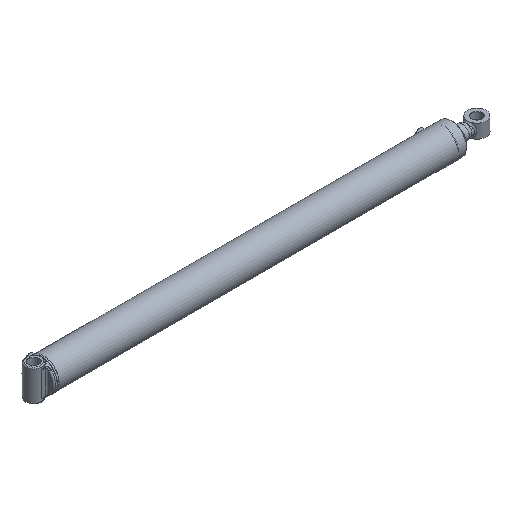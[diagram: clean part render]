
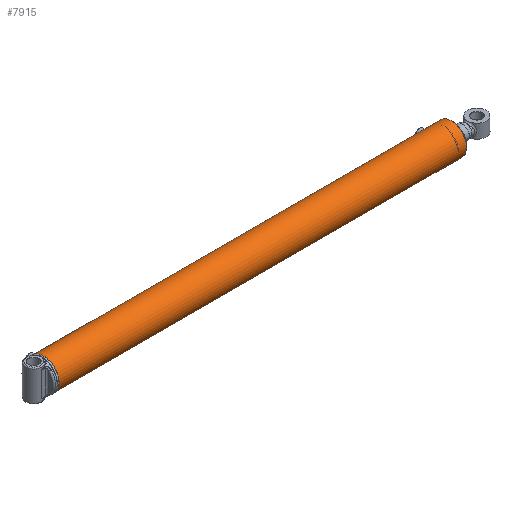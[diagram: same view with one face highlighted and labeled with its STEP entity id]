
A CAD part, isometric view. The second image highlights one B-rep face of the part: STEP entity #7915.
In plain terms, the highlighted cylindrical face has radius 49.212 mm (diameter 98.425 mm), a full revolution.
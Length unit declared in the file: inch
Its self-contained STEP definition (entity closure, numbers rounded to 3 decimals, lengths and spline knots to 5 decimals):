
#653=B_SPLINE_CURVE_WITH_KNOTS('',3,(#11899,#11900,#11901,#11902,#11903,
#11904,#11905,#11906,#11907,#11908),.UNSPECIFIED.,.F.,.F.,(4,2,2,2,4),(0.,
0.17952,0.35904,0.53855,0.71807),
 .UNSPECIFIED.);
#654=B_SPLINE_CURVE_WITH_KNOTS('',3,(#11909,#11910,#11911,#11912,#11913,
#11914,#11915,#11916,#11917,#11918,#11919,#11920,#11921,#11922,#11923,#11924,
#11925,#11926,#11927,#11928,#11929,#11930,#11931,#11932,#11933,#11934),
 .UNSPECIFIED.,.F.,.F.,(4,2,2,2,2,2,2,2,2,2,2,2,4),(0.71807,0.89759,
1.07711,1.25662,1.43614,1.61566,1.79518,
1.97469,2.15421,2.33373,2.51325,2.69276,
2.87228),.UNSPECIFIED.);
#655=B_SPLINE_CURVE_WITH_KNOTS('',3,(#11939,#11940,#11941,#11942,#11943,
#11944,#11945,#11946,#11947,#11948),.UNSPECIFIED.,.F.,.F.,(4,2,2,2,4),(0.,
0.17952,0.35904,0.53855,0.71807),
 .UNSPECIFIED.);
#656=B_SPLINE_CURVE_WITH_KNOTS('',3,(#11949,#11950,#11951,#11952,#11953,
#11954,#11955,#11956,#11957,#11958,#11959,#11960,#11961,#11962,#11963,#11964,
#11965,#11966,#11967,#11968,#11969,#11970,#11971,#11972,#11973,#11974),
 .UNSPECIFIED.,.F.,.F.,(4,2,2,2,2,2,2,2,2,2,2,2,4),(0.71807,0.89759,
1.07711,1.25662,1.43614,1.61566,1.79518,
1.97469,2.15421,2.33373,2.51325,2.69276,
2.87228),.UNSPECIFIED.);
#962=FACE_BOUND('',#2484,.T.);
#963=FACE_BOUND('',#2485,.T.);
#1244=LINE('',#12002,#1570);
#1570=VECTOR('',#9736,1.9375);
#1893=CYLINDRICAL_SURFACE('',#8765,1.9375);
#1987=FACE_OUTER_BOUND('',#2483,.T.);
#2483=EDGE_LOOP('',(#5553,#5554,#5555,#5556,#5557,#5558));
#2484=EDGE_LOOP('',(#5559,#5560));
#2485=EDGE_LOOP('',(#5561,#5562));
#3065=CIRCLE('',#8762,1.9375);
#3067=CIRCLE('',#8764,1.9375);
#3068=CIRCLE('',#8766,1.9375);
#3069=CIRCLE('',#8767,1.9375);
#3547=VERTEX_POINT('',#11896);
#3548=VERTEX_POINT('',#11898);
#3549=VERTEX_POINT('',#11936);
#3550=VERTEX_POINT('',#11938);
#3557=VERTEX_POINT('',#11995);
#3558=VERTEX_POINT('',#11996);
#3559=VERTEX_POINT('',#12001);
#3560=VERTEX_POINT('',#12003);
#4319=EDGE_CURVE('',#3548,#3547,#653,.T.);
#4320=EDGE_CURVE('',#3547,#3548,#654,.T.);
#4322=EDGE_CURVE('',#3550,#3549,#655,.T.);
#4323=EDGE_CURVE('',#3549,#3550,#656,.T.);
#4333=EDGE_CURVE('',#3557,#3558,#3065,.T.);
#4335=EDGE_CURVE('',#3558,#3557,#3067,.T.);
#4336=EDGE_CURVE('',#3557,#3559,#1244,.T.);
#4337=EDGE_CURVE('',#3560,#3559,#3068,.T.);
#4338=EDGE_CURVE('',#3559,#3560,#3069,.T.);
#5553=ORIENTED_EDGE('',*,*,#4333,.F.);
#5554=ORIENTED_EDGE('',*,*,#4336,.T.);
#5555=ORIENTED_EDGE('',*,*,#4337,.F.);
#5556=ORIENTED_EDGE('',*,*,#4338,.F.);
#5557=ORIENTED_EDGE('',*,*,#4336,.F.);
#5558=ORIENTED_EDGE('',*,*,#4335,.F.);
#5559=ORIENTED_EDGE('',*,*,#4319,.T.);
#5560=ORIENTED_EDGE('',*,*,#4320,.T.);
#5561=ORIENTED_EDGE('',*,*,#4322,.T.);
#5562=ORIENTED_EDGE('',*,*,#4323,.T.);
#7915=ADVANCED_FACE('',(#1987,#962,#963),#1893,.T.);
#8762=AXIS2_PLACEMENT_3D('',#11997,#9728,#9729);
#8764=AXIS2_PLACEMENT_3D('',#11999,#9732,#9733);
#8765=AXIS2_PLACEMENT_3D('',#12000,#9734,#9735);
#8766=AXIS2_PLACEMENT_3D('',#12004,#9737,#9738);
#8767=AXIS2_PLACEMENT_3D('',#12005,#9739,#9740);
#9728=DIRECTION('center_axis',(1.,0.,0.));
#9729=DIRECTION('ref_axis',(0.,-1.,0.));
#9732=DIRECTION('center_axis',(1.,0.,0.));
#9733=DIRECTION('ref_axis',(0.,-1.,0.));
#9734=DIRECTION('center_axis',(1.,0.,0.));
#9735=DIRECTION('ref_axis',(0.,-1.,0.));
#9736=DIRECTION('',(-1.,0.,0.));
#9737=DIRECTION('center_axis',(-1.,0.,0.));
#9738=DIRECTION('ref_axis',(0.,-1.,0.));
#9739=DIRECTION('center_axis',(-1.,0.,0.));
#9740=DIRECTION('ref_axis',(0.,-1.,0.));
#11896=CARTESIAN_POINT('',(0.7225,0.,1.9375));
#11898=CARTESIAN_POINT('',(0.91,-0.1875,1.92841));
#11899=CARTESIAN_POINT('Ctrl Pts',(0.91,-0.1875,1.92841));
#11900=CARTESIAN_POINT('Ctrl Pts',(0.88644,-0.1875,1.92841));
#11901=CARTESIAN_POINT('Ctrl Pts',(0.86132,-0.18279,
1.92888));
#11902=CARTESIAN_POINT('Ctrl Pts',(0.81513,-0.16365,
1.9306));
#11903=CARTESIAN_POINT('Ctrl Pts',(0.79406,-0.14922,
1.93182));
#11904=CARTESIAN_POINT('Ctrl Pts',(0.76078,-0.11594,
1.9341));
#11905=CARTESIAN_POINT('Ctrl Pts',(0.74635,-0.09487,
1.93531));
#11906=CARTESIAN_POINT('Ctrl Pts',(0.72721,-0.04868,
1.93703));
#11907=CARTESIAN_POINT('Ctrl Pts',(0.7225,-0.02356,1.9375));
#11908=CARTESIAN_POINT('Ctrl Pts',(0.7225,0.,1.9375));
#11909=CARTESIAN_POINT('Ctrl Pts',(0.7225,0.,1.9375));
#11910=CARTESIAN_POINT('Ctrl Pts',(0.7225,0.02356,1.9375));
#11911=CARTESIAN_POINT('Ctrl Pts',(0.72721,0.04868,
1.93703));
#11912=CARTESIAN_POINT('Ctrl Pts',(0.74635,0.09487,
1.93531));
#11913=CARTESIAN_POINT('Ctrl Pts',(0.76078,0.11594,
1.9341));
#11914=CARTESIAN_POINT('Ctrl Pts',(0.79406,0.14922,
1.93182));
#11915=CARTESIAN_POINT('Ctrl Pts',(0.81513,0.16365,
1.9306));
#11916=CARTESIAN_POINT('Ctrl Pts',(0.86132,0.18279,
1.92888));
#11917=CARTESIAN_POINT('Ctrl Pts',(0.88644,0.1875,1.92841));
#11918=CARTESIAN_POINT('Ctrl Pts',(0.93356,0.1875,1.92841));
#11919=CARTESIAN_POINT('Ctrl Pts',(0.95868,0.18279,
1.92888));
#11920=CARTESIAN_POINT('Ctrl Pts',(1.00487,0.16365,1.9306));
#11921=CARTESIAN_POINT('Ctrl Pts',(1.02594,0.14922,1.93182));
#11922=CARTESIAN_POINT('Ctrl Pts',(1.05922,0.11594,1.9341));
#11923=CARTESIAN_POINT('Ctrl Pts',(1.07365,0.09487,
1.93531));
#11924=CARTESIAN_POINT('Ctrl Pts',(1.09279,0.04868,
1.93703));
#11925=CARTESIAN_POINT('Ctrl Pts',(1.0975,0.02356,1.9375));
#11926=CARTESIAN_POINT('Ctrl Pts',(1.0975,-0.02356,1.9375));
#11927=CARTESIAN_POINT('Ctrl Pts',(1.09279,-0.04868,
1.93703));
#11928=CARTESIAN_POINT('Ctrl Pts',(1.07365,-0.09487,
1.93531));
#11929=CARTESIAN_POINT('Ctrl Pts',(1.05922,-0.11594,
1.9341));
#11930=CARTESIAN_POINT('Ctrl Pts',(1.02594,-0.14922,
1.93182));
#11931=CARTESIAN_POINT('Ctrl Pts',(1.00487,-0.16365,
1.9306));
#11932=CARTESIAN_POINT('Ctrl Pts',(0.95868,-0.18279,
1.92888));
#11933=CARTESIAN_POINT('Ctrl Pts',(0.93356,-0.1875,1.92841));
#11934=CARTESIAN_POINT('Ctrl Pts',(0.91,-0.1875,1.92841));
#11936=CARTESIAN_POINT('',(49.9425,0.,1.9375));
#11938=CARTESIAN_POINT('',(50.13,-0.1875,1.92841));
#11939=CARTESIAN_POINT('Ctrl Pts',(50.13,-0.1875,1.92841));
#11940=CARTESIAN_POINT('Ctrl Pts',(50.10644,-0.1875,
1.92841));
#11941=CARTESIAN_POINT('Ctrl Pts',(50.08132,-0.18279,
1.92888));
#11942=CARTESIAN_POINT('Ctrl Pts',(50.03513,-0.16365,
1.9306));
#11943=CARTESIAN_POINT('Ctrl Pts',(50.01406,-0.14922,1.93182));
#11944=CARTESIAN_POINT('Ctrl Pts',(49.98078,-0.11594,
1.9341));
#11945=CARTESIAN_POINT('Ctrl Pts',(49.96635,-0.09487,
1.93531));
#11946=CARTESIAN_POINT('Ctrl Pts',(49.94721,-0.04868,
1.93703));
#11947=CARTESIAN_POINT('Ctrl Pts',(49.9425,-0.02356,1.9375));
#11948=CARTESIAN_POINT('Ctrl Pts',(49.9425,0.,1.9375));
#11949=CARTESIAN_POINT('Ctrl Pts',(49.9425,0.,1.9375));
#11950=CARTESIAN_POINT('Ctrl Pts',(49.9425,0.02356,1.9375));
#11951=CARTESIAN_POINT('Ctrl Pts',(49.94721,0.04868,
1.93703));
#11952=CARTESIAN_POINT('Ctrl Pts',(49.96635,0.09487,
1.93531));
#11953=CARTESIAN_POINT('Ctrl Pts',(49.98078,0.11594,1.9341));
#11954=CARTESIAN_POINT('Ctrl Pts',(50.01406,0.14922,1.93182));
#11955=CARTESIAN_POINT('Ctrl Pts',(50.03513,0.16365,1.9306));
#11956=CARTESIAN_POINT('Ctrl Pts',(50.08132,0.18279,1.92888));
#11957=CARTESIAN_POINT('Ctrl Pts',(50.10644,0.1875,1.92841));
#11958=CARTESIAN_POINT('Ctrl Pts',(50.15356,0.1875,1.92841));
#11959=CARTESIAN_POINT('Ctrl Pts',(50.17868,0.18279,1.92888));
#11960=CARTESIAN_POINT('Ctrl Pts',(50.22487,0.16365,1.9306));
#11961=CARTESIAN_POINT('Ctrl Pts',(50.24594,0.14922,1.93182));
#11962=CARTESIAN_POINT('Ctrl Pts',(50.27922,0.11594,1.9341));
#11963=CARTESIAN_POINT('Ctrl Pts',(50.29365,0.09487,
1.93531));
#11964=CARTESIAN_POINT('Ctrl Pts',(50.31279,0.04868,1.93703));
#11965=CARTESIAN_POINT('Ctrl Pts',(50.3175,0.02356,1.9375));
#11966=CARTESIAN_POINT('Ctrl Pts',(50.3175,-0.02356,1.9375));
#11967=CARTESIAN_POINT('Ctrl Pts',(50.31279,-0.04868,
1.93703));
#11968=CARTESIAN_POINT('Ctrl Pts',(50.29365,-0.09487,
1.93531));
#11969=CARTESIAN_POINT('Ctrl Pts',(50.27922,-0.11594,
1.9341));
#11970=CARTESIAN_POINT('Ctrl Pts',(50.24594,-0.14922,1.93182));
#11971=CARTESIAN_POINT('Ctrl Pts',(50.22487,-0.16365,
1.9306));
#11972=CARTESIAN_POINT('Ctrl Pts',(50.17868,-0.18279,
1.92888));
#11973=CARTESIAN_POINT('Ctrl Pts',(50.15356,-0.1875,
1.92841));
#11974=CARTESIAN_POINT('Ctrl Pts',(50.13,-0.1875,1.92841));
#11995=CARTESIAN_POINT('',(51.56,1.9375,0.));
#11996=CARTESIAN_POINT('',(51.56,0.,-1.9375));
#11997=CARTESIAN_POINT('Origin',(51.56,0.,0.));
#11999=CARTESIAN_POINT('Origin',(51.56,0.,0.));
#12000=CARTESIAN_POINT('Origin',(0.,0.,0.));
#12001=CARTESIAN_POINT('',(0.09382,1.9375,0.));
#12002=CARTESIAN_POINT('',(0.,1.9375,0.));
#12003=CARTESIAN_POINT('',(0.09382,0.,1.9375));
#12004=CARTESIAN_POINT('Origin',(0.09382,0.,0.));
#12005=CARTESIAN_POINT('Origin',(0.09382,0.,0.));
